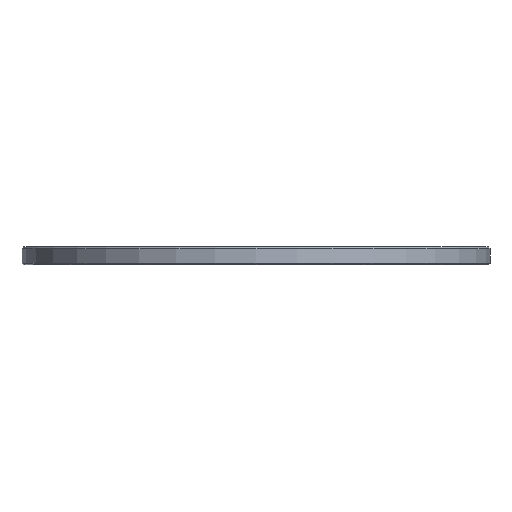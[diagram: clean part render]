
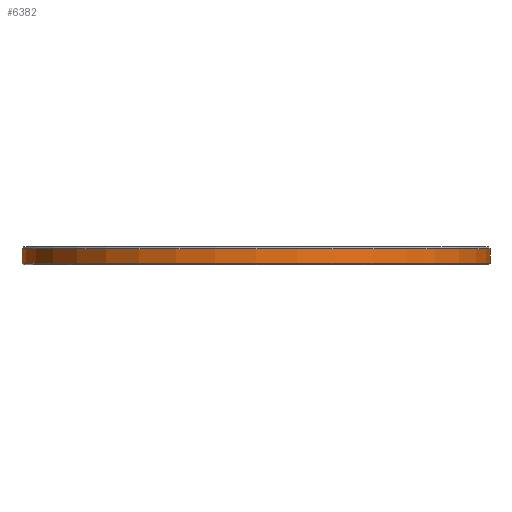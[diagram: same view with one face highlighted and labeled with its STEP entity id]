
A CAD part, front view. The second image highlights one B-rep face of the part: STEP entity #6382.
In plain terms, the highlighted cylindrical face has radius 40.625 mm (diameter 81.25 mm), a full revolution.
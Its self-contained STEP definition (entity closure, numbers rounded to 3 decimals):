
#71=CYLINDRICAL_SURFACE('',#6788,40.625);
#657=FACE_OUTER_BOUND('',#1028,.T.);
#1028=EDGE_LOOP('',(#5915,#5916,#5917,#5918));
#1118=CIRCLE('',#6787,40.625);
#1119=CIRCLE('',#6789,40.625);
#1923=LINE('',#10182,#2738);
#2738=VECTOR('',#8350,40.625);
#3324=VERTEX_POINT('',#10176);
#3325=VERTEX_POINT('',#10180);
#4190=EDGE_CURVE('',#3324,#3324,#1118,.T.);
#4192=EDGE_CURVE('',#3325,#3325,#1119,.T.);
#4193=EDGE_CURVE('',#3325,#3324,#1923,.T.);
#5915=ORIENTED_EDGE('',*,*,#4192,.F.);
#5916=ORIENTED_EDGE('',*,*,#4193,.T.);
#5917=ORIENTED_EDGE('',*,*,#4190,.F.);
#5918=ORIENTED_EDGE('',*,*,#4193,.F.);
#6382=ADVANCED_FACE('',(#657),#71,.T.);
#6787=AXIS2_PLACEMENT_3D('',#10177,#8343,#8344);
#6788=AXIS2_PLACEMENT_3D('',#10179,#8346,#8347);
#6789=AXIS2_PLACEMENT_3D('',#10181,#8348,#8349);
#8343=DIRECTION('center_axis',(0.,0.,-1.));
#8344=DIRECTION('ref_axis',(1.,0.,0.));
#8346=DIRECTION('center_axis',(0.,0.,1.));
#8347=DIRECTION('ref_axis',(1.,0.,0.));
#8348=DIRECTION('center_axis',(0.,0.,1.));
#8349=DIRECTION('ref_axis',(1.,0.,0.));
#8350=DIRECTION('',(0.,0.,-1.));
#10176=CARTESIAN_POINT('',(-40.625,0.,0.3));
#10177=CARTESIAN_POINT('Origin',(0.,0.,0.3));
#10179=CARTESIAN_POINT('Origin',(0.,0.,0.));
#10180=CARTESIAN_POINT('',(-40.625,0.,2.825));
#10181=CARTESIAN_POINT('Origin',(0.,0.,2.825));
#10182=CARTESIAN_POINT('',(-40.625,0.,0.));
